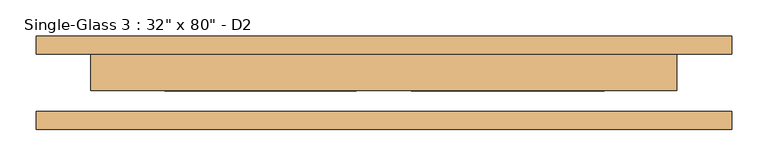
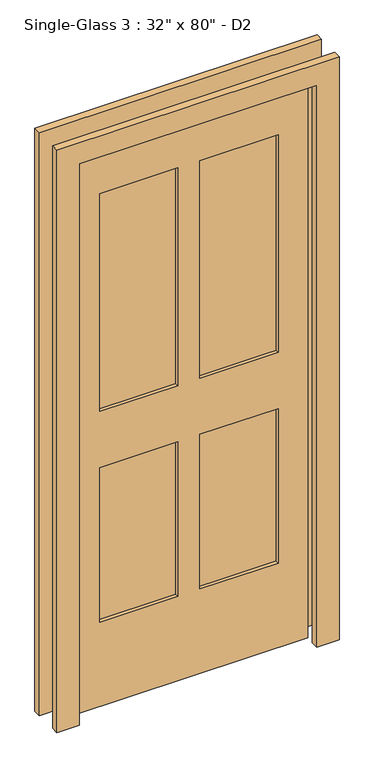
"""IFC4 building model written with IfcOpenShell, lengths in millimetres: door geometry."""

from ifc_helpers import new_model, si_unit, frame, origin, place, context, project, spatial, polyline, outline, extrude, source, transform, mapped, element, save


def door_317ed896(model_context):
    return source(origin(), model_context, "Body", "SweptSolid", [
        extrude(outline(polyline([(2108.2, -482.6), (0.0, -482.6), (0.0, -406.5240165), (2033.3906173, -406.5240165), (2033.3906173, 406.2759835), (0.0, 406.2759835), (0.0, 482.6), (2108.2, 482.6), (2108.2, -482.6)])), frame((0.0, 39.6875, 0.0), z_axis=(0.0, 1.0, 0.0), x_axis=(0.0, 0.0, 1.0)), (0.0, 0.0, 1.0), 25.4),
        extrude(outline(polyline([(2108.2, 482.6), (2108.2, -482.6), (1.3906173, -482.6), (1.3906173, -406.5240165), (2032.0, -406.5240165), (2032.0, 406.4), (0.0, 406.4), (0.0, 482.6), (2108.2, 482.6)])), frame((0.0, -65.0875, 0.0), z_axis=(0.0, 1.0, 0.0), x_axis=(0.0, 0.0, 1.0)), (0.0, 0.0, 1.0), 25.4),
        extrude(outline(polyline([(-37.9166629, 1.5875), (-304.8, 1.5875), (-304.8, 26.9875), (-37.9166629, 26.9875), (-37.9166629, 1.5875)])), frame((0.0, 0.0, 1066.8), z_axis=(0.0, 0.0, 1.0), x_axis=(1.0, 0.0, 0.0)), (0.0, 0.0, 1.0), 787.6046757),
        extrude(outline(polyline([(304.8, 1.5875), (37.4271634, 1.5875), (37.4271634, 26.9875), (304.8, 26.9875), (304.8, 1.5875)])), frame((0.0, 0.0, 1066.8), z_axis=(0.0, 0.0, 1.0), x_axis=(1.0, 0.0, 0.0)), (0.0, 0.0, 1.0), 787.6046757),
        extrude(outline(polyline([(-37.9166629, 1.5875), (-304.8, 1.5875), (-304.8, 26.9875), (-37.9166629, 26.9875), (-37.9166629, 1.5875)])), frame((0.0, 0.0, 305.0046757), z_axis=(0.0, 0.0, 1.0), x_axis=(1.0, 0.0, 0.0)), (0.0, 0.0, 1.0), 558.8),
        extrude(outline(polyline([(304.8, 1.5875), (37.4271634, 1.5875), (37.4271634, 26.9875), (304.8, 26.9875), (304.8, 1.5875)])), frame((0.0, 0.0, 305.0046757), z_axis=(0.0, 0.0, 1.0), x_axis=(1.0, 0.0, 0.0)), (0.0, 0.0, 1.0), 558.5953243),
        extrude(outline(polyline([(2033.3906173, 406.2759835), (2033.3906173, -406.5240165), (1.3906173, -406.5240165), (1.3906173, 406.2759835), (2033.3906173, 406.2759835)]), holes=[polyline([(1855.795293, -38.2240165), (1068.1906173, -38.2240165), (1068.1906173, -304.2511799), (1855.795293, -304.2511799), (1855.795293, -38.2240165)]), polyline([(1855.795293, 305.3488201), (1068.1906173, 305.3488201), (1068.1906173, 37.9759835), (1855.795293, 37.9759835), (1855.795293, 305.3488201)]), polyline([(865.195293, -38.2240165), (306.395293, -38.2240165), (306.395293, -304.2511799), (865.195293, -304.2511799), (865.195293, -38.2240165)]), polyline([(864.9906173, 305.3488201), (306.395293, 305.3488201), (306.395293, 37.9759835), (864.9906173, 37.9759835), (864.9906173, 305.3488201)])]), frame((0.0, -11.1125, 0.0), z_axis=(0.0, 1.0, 0.0), x_axis=(0.0, 0.0, 1.0)), (0.0, 0.0, 1.0), 50.8),
    ])


if __name__ == "__main__":
    model = new_model("IFC4")
    model_context = context("Model", 3, world=origin())
    ifc_project = project(units=[si_unit("LENGTHUNIT", "METRE", prefix="MILLI")], contexts=[model_context])
    site = spatial("IfcSite", under=ifc_project)
    building = spatial("IfcBuilding", under=site)
    placement = place(None, origin())
    door_shape = door_317ed896(model_context)
    element("IfcDoor", 1, ObjectType="Single-Glass 3 : 32\" x 80\" - D2", at=placement, inside=building, context=model_context, shape_type="MappedRepresentation", body=[
        mapped(door_shape, transform((0.0, 0.0, 0.0), x_axis=(1.0, 0.0, 0.0), y_axis=(0.0, 1.0, 0.0), z_axis=(0.0, 0.0, 1.0))),
    ])
    save(model, "model.ifc")
